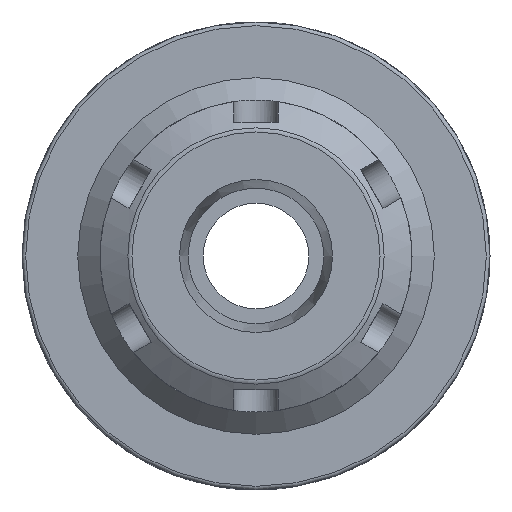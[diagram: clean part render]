
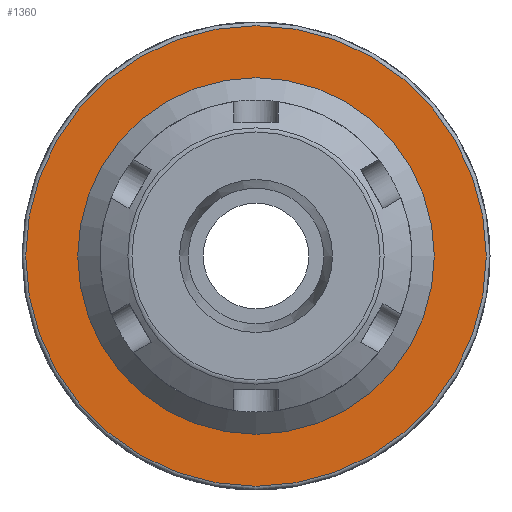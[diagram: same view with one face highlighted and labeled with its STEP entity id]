
A CAD part, front view. The second image highlights one B-rep face of the part: STEP entity #1360.
In plain terms, the highlighted planar face has unit normal (0, -1, 0).
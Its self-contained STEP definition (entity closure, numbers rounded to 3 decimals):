
#128=FACE_BOUND('',#263,.T.);
#141=PLANE('',#1532);
#181=FACE_OUTER_BOUND('',#262,.T.);
#262=EDGE_LOOP('',(#947));
#263=EDGE_LOOP('',(#948));
#509=CIRCLE('',#1529,24.);
#512=CIRCLE('',#1533,31.);
#588=VERTEX_POINT('',#2105);
#591=VERTEX_POINT('',#2113);
#730=EDGE_CURVE('',#588,#588,#509,.T.);
#734=EDGE_CURVE('',#591,#591,#512,.T.);
#947=ORIENTED_EDGE('',*,*,#734,.F.);
#948=ORIENTED_EDGE('',*,*,#730,.F.);
#1360=ADVANCED_FACE('',(#181,#128),#141,.T.);
#1529=AXIS2_PLACEMENT_3D('',#2106,#1706,#1707);
#1532=AXIS2_PLACEMENT_3D('',#2112,#1713,#1714);
#1533=AXIS2_PLACEMENT_3D('',#2114,#1715,#1716);
#1706=DIRECTION('center_axis',(0.,-1.,0.));
#1707=DIRECTION('ref_axis',(-1.,0.,0.));
#1713=DIRECTION('center_axis',(0.,-1.,0.));
#1714=DIRECTION('ref_axis',(0.,0.,-1.));
#1715=DIRECTION('center_axis',(0.,1.,0.));
#1716=DIRECTION('ref_axis',(-1.,0.,0.));
#2105=CARTESIAN_POINT('',(24.,61.6,0.));
#2106=CARTESIAN_POINT('Origin',(0.,61.6,0.));
#2112=CARTESIAN_POINT('Origin',(31.5,61.6,0.));
#2113=CARTESIAN_POINT('',(0.,61.6,-31.));
#2114=CARTESIAN_POINT('Origin',(0.,61.6,0.));
